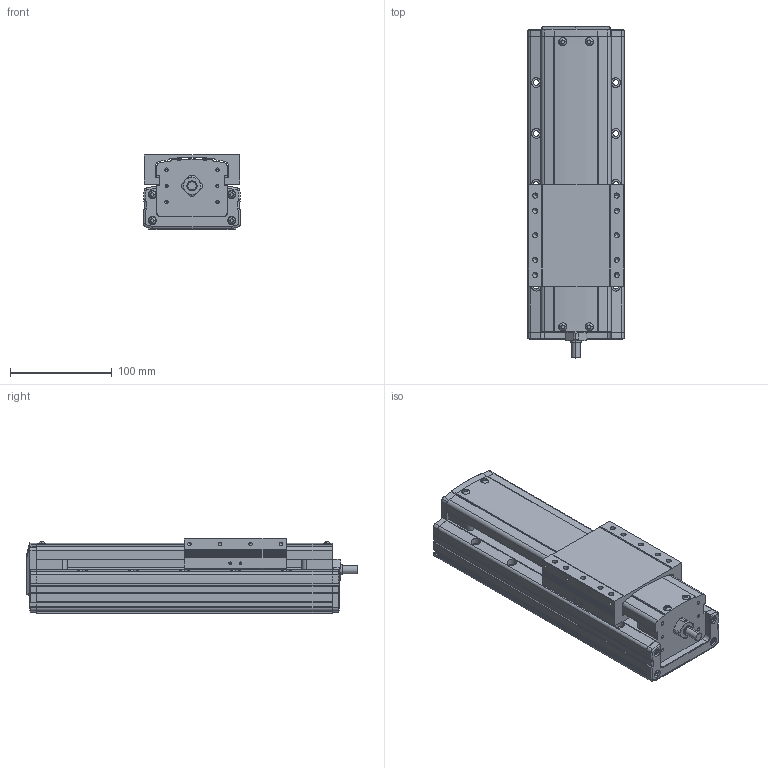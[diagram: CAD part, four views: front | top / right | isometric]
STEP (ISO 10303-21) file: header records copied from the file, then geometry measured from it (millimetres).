
FILE_DESCRIPTION(('STEP AP214'),'1');
FILE_NAME('Z:/Web/3D/PSA95/STP/PSA95-100 (3D)/PSA95ㅁㅁ-100S.stp','2014-07-02T23:27:39',(' '),(' '),'Spatial InterOp 3D',' ',' ');
FILE_SCHEMA(('automotive_design'));
Length unit declared in the file: millimetre
Products named in the file (18): BASE; RRCV; 스크루 : Round - M4.0 x 10.0; 너트 : Square - M10.0 x 220.7419; RR1500; FRCV-090; 스크루 : Round - M4.0 x 6.0; SLBL-PA90
Bounding box: 95 x 326 x 74 mm (x, y, z)
Volume: 1706693.3 mm3; surface area: 210583.3 mm2
Topology: 18 solids, 18 shells, 1703 faces, 4602 edges, 2950 vertices
Faces by surface type: plane 999, cylinder 487, cone 149, sphere 30, bspline 24, torus 14
Entity records: 69091 total; most frequent: CARTESIAN_POINT 12124, ORIENTED_EDGE 9020, DIRECTION 8930, EDGE_CURVE 4510, LINE 3190, VECTOR 3190, VERTEX_POINT 2950, AXIS2_PLACEMENT_3D 2870
